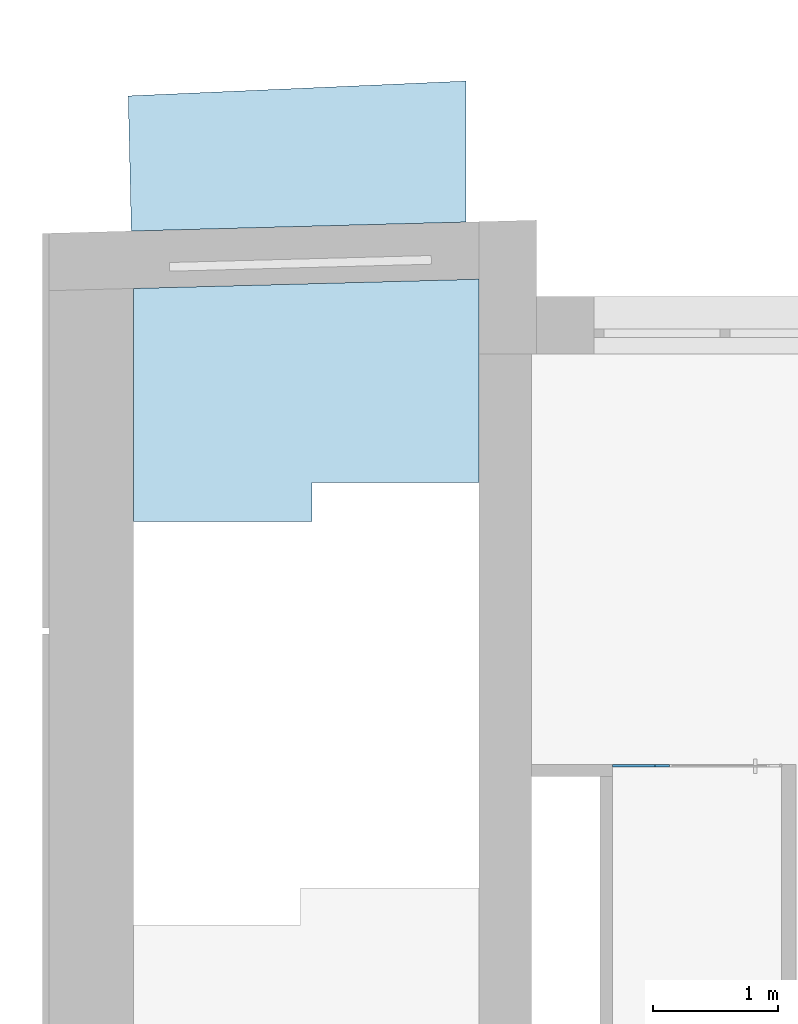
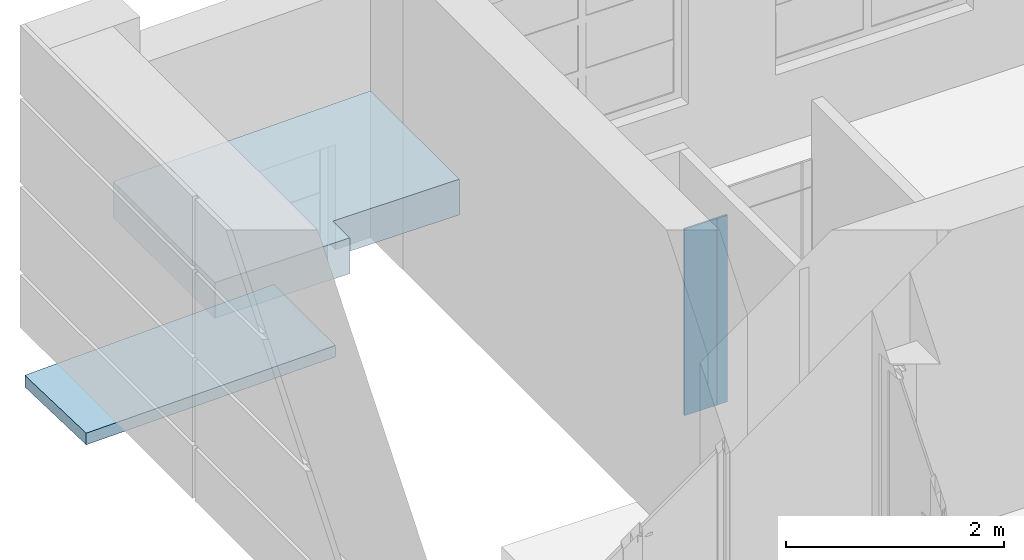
# One storey, part 18 of 66: 2 plates, 2 slabs, 2 elements without a shape of their own.
"""IFC2X3 building model written with IfcOpenShell, lengths in millimetres."""

from ifc_helpers import new_model, entity, si_unit, converted_unit, derived_unit, direction, frame, origin, origin_2d_with_axis, place, context, subcontext, project, spatial, polyline, rectangle, outline, extrude, source, transform, mapped, material, layer, layer_set, layer_usage, type_object, type_shapes, element, aggregate, save


model = new_model("IFC2X3")

# Units and contexts
model_context = context("Model", 3, precision=0.01, world=origin(), true_north=direction((6.12303176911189e-17, 1.0)))
body_context = subcontext(model_context, "Body", "Model", "MODEL_VIEW")
ifc_project = project(units=[si_unit("LENGTHUNIT", "METRE", prefix="MILLI"), si_unit("AREAUNIT", "SQUARE_METRE"), si_unit("VOLUMEUNIT", "CUBIC_METRE"), converted_unit("PLANEANGLEUNIT", "DEGREE", entity("IfcRatioMeasure", 0.0174532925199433), si_unit("PLANEANGLEUNIT", "RADIAN"), dimensions=[0, 0, 0, 0, 0, 0, 0]), si_unit("MASSUNIT", "GRAM", prefix="KILO"), derived_unit("MASSDENSITYUNIT", [(si_unit("MASSUNIT", "GRAM", prefix="KILO"), 1), (si_unit("LENGTHUNIT", "METRE"), -3)]), si_unit("TIMEUNIT", "SECOND"), si_unit("FREQUENCYUNIT", "HERTZ"), si_unit("THERMODYNAMICTEMPERATUREUNIT", "DEGREE_CELSIUS"), derived_unit("THERMALTRANSMITTANCEUNIT", [(si_unit("MASSUNIT", "GRAM", prefix="KILO"), 1), (si_unit("THERMODYNAMICTEMPERATUREUNIT", "KELVIN"), -1), (si_unit("TIMEUNIT", "SECOND"), -3)]), derived_unit("VOLUMETRICFLOWRATEUNIT", [(si_unit("LENGTHUNIT", "METRE"), 3), (si_unit("TIMEUNIT", "SECOND"), -1)]), si_unit("ELECTRICCURRENTUNIT", "AMPERE"), si_unit("ELECTRICVOLTAGEUNIT", "VOLT"), si_unit("POWERUNIT", "WATT"), si_unit("FORCEUNIT", "NEWTON", prefix="KILO"), si_unit("ILLUMINANCEUNIT", "LUX"), si_unit("LUMINOUSFLUXUNIT", "LUMEN"), si_unit("LUMINOUSINTENSITYUNIT", "CANDELA"), derived_unit("USERDEFINED", [(si_unit("MASSUNIT", "GRAM", prefix="KILO"), -1), (si_unit("LENGTHUNIT", "METRE"), -2), (si_unit("TIMEUNIT", "SECOND"), 3), (si_unit("LUMINOUSFLUXUNIT", "LUMEN"), 1)]), derived_unit("LINEARVELOCITYUNIT", [(si_unit("LENGTHUNIT", "METRE"), 1), (si_unit("TIMEUNIT", "SECOND"), -1)]), si_unit("PRESSUREUNIT", "PASCAL"), derived_unit("USERDEFINED", [(si_unit("LENGTHUNIT", "METRE"), -2), (si_unit("MASSUNIT", "GRAM", prefix="KILO"), 1), (si_unit("TIMEUNIT", "SECOND"), -2)])], contexts=[model_context])

# Site, building, storey
site_placement = place(None, frame((-151.875543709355, 2715.0, 0.0)))
site = spatial("IfcSite", under=ifc_project, at=site_placement, Name="Surface", CompositionType="ELEMENT")
building_placement = place(site_placement, origin())
building = spatial("IfcBuilding", under=site, at=building_placement, CompositionType="ELEMENT")
storey_placement = place(building_placement, frame((0.0, 0.0, 3350.0)))
storey = spatial("IfcBuildingStorey", under=building, at=storey_placement, Name="2 korrus", CompositionType="ELEMENT", Elevation=3350.00000000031)

# Curtain wall, plates
curtain_wall_type = type_object("IfcCurtainWallType", Name="Curtain Wall:Klaassein KLS-10", PredefinedType="NOTDEFINED")
curtain_wall_placement = place(storey_placement, frame((0.0, 0.0, -3350.0)))
curtain_wall = element("IfcCurtainWall", 1, at=curtain_wall_placement, inside=storey, type_object=curtain_wall_type, Name="Curtain Wall:Klaassein KLS-10", ObjectType="Curtain Wall:Klaassein KLS-10")
ifc_material_1 = material(Name="<Unnamed>")
ifc_layer_1 = layer(ifc_material_1, 20.0)
ifc_layer_set_1 = layer_set([ifc_layer_1], Name="Curtain Wall:Klaassein KLS-01")
ifc_layer_usage_1 = layer_usage(ifc_layer_set_1, "AXIS3", "POSITIVE", 0.0)
plate_type_1 = type_object("IfcPlateType", Name="Glazed", PredefinedType="CURTAIN_PANEL", material=ifc_layer_set_1)
shared_shape_1 = source(origin(), body_context, "Body", "SweptSolid", [
    extrude(rectangle(XDim=20.0, YDim=113.009438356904, at=origin_2d_with_axis()), frame((0.0, 0.0, 0.0), z_axis=(0.0, 0.0, 1.0), x_axis=(0.0, 1.0, 0.0)), (0.0, 0.0, 1.0), 2090.0),
])
type_shapes(plate_type_1, [shared_shape_1])
plate_1_placement = place(curtain_wall_placement, frame((6009.31975398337, 8850.0, 3350.0), z_axis=(0.0, 0.0, 1.0), x_axis=(-1.0, 0.0, 0.0)))
plate_1 = element("IfcPlate", 2, at=plate_1_placement, type_object=plate_type_1, material=ifc_layer_usage_1, Name="System Panel:Glazed", ObjectType="Glazed", context=body_context, shape_type="MappedRepresentation", body=[
    mapped(shared_shape_1, transform((0.0, 0.0, 0.0), scale=1.0)),
])
ifc_layer_usage_2 = layer_usage(ifc_layer_set_1, "AXIS3", "POSITIVE", 0.0)
plate_type_2 = type_object("IfcPlateType", Name="Glazed", PredefinedType="CURTAIN_PANEL", material=ifc_layer_set_1)
shared_shape_2 = source(origin(), body_context, "Body", "SweptSolid", [
    extrude(rectangle(XDim=20.0, YDim=342.740635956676, at=origin_2d_with_axis()), frame((0.0, 0.0, 0.0), z_axis=(0.0, 0.0, 1.0), x_axis=(0.0, 1.0, 0.0)), (0.0, 0.0, 1.0), 2090.0),
])
type_shapes(plate_type_2, [shared_shape_2])
plate_2_placement = place(curtain_wall_placement, frame((5781.44471682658, 8850.0, 3350.0), z_axis=(0.0, 0.0, 1.0), x_axis=(-1.0, 0.0, 0.0)))
plate_2 = element("IfcPlate", 3, at=plate_2_placement, type_object=plate_type_2, material=ifc_layer_usage_2, Name="System Panel:Glazed", ObjectType="Glazed", context=body_context, shape_type="MappedRepresentation", body=[
    mapped(shared_shape_2, transform((0.0, 0.0, 0.0), scale=1.0)),
])
aggregate(curtain_wall, [plate_1, plate_2])

# Slab
ifc_material_2 = material(Name="Betoonplaat")
ifc_layer_2 = layer(ifc_material_2, 400.0)
ifc_layer_set_2 = layer_set([ifc_layer_2], Name="Floor:Trepimade5")
ifc_layer_usage_3 = layer_usage(ifc_layer_set_2, "AXIS3", "POSITIVE", 0.0)
slab_1_placement = place(storey_placement, origin())
element("IfcSlab", 4, at=slab_1_placement, inside=storey, material=ifc_layer_usage_3, Name="Floor:Trepimade5", ObjectType="Floor:Trepimade5", PredefinedType="FLOOR", context=body_context, shape_type="SweptSolid", body=[
    extrude(outline(polyline([(-738.357260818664, -1400.36315130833), (1129.36111489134, -1400.36315130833), (1203.81694178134, 1369.76228843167), (-428.231767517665, 1370.32133806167), (-428.231767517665, 30.3213380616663), (-738.357260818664, 30.3213380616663), (-738.357260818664, -1400.36315130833)])), frame((3170.36315130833, 11545.4396277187, 1643.98946762), z_axis=(0.0, 0.0, -1.0), x_axis=(0.0, 1.0, 0.0)), (0.0, 0.0, 1.0), 400.0),
])

# Roof, slab
roof_placement = place(storey_placement, frame((1727.5918703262, 13134.4930192, -1577.33855837)))
roof = element("IfcRoof", 5, at=roof_placement, inside=storey, Name="Basic Roof:Olemasolev varikatus", ObjectType="Basic Roof:Olemasolev varikatus", ShapeType="NOTDEFINED")
ifc_material_3 = material(Name="Betoon")
ifc_layer_3 = layer(ifc_material_3, 130.0)
ifc_layer_set_3 = layer_set([ifc_layer_3], Name="Basic Roof:Olemasolev varikatus")
slab_2_placement = place(roof_placement, origin())
slab_2 = element("IfcSlab", 6, at=slab_2_placement, material=ifc_layer_set_3, Name="Basic Roof:Olemasolev varikatus", ObjectType="Basic Roof:Olemasolev varikatus", PredefinedType="ROOF", context=body_context, shape_type="SweptSolid", body=[
    extrude(outline(polyline([(-1353.3393298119, 482.358571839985), (-1328.5608916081, -601.480893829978), (1353.3393298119, -529.396396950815), (1353.3393298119, 601.48089382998), (-1353.3393298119, 482.358571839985)])), frame((1353.3393298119, 601.480893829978, 0.0)), (0.0, 0.0, 1.0), 130.0),
])
aggregate(roof, [slab_2])

save(model, "model.ifc")
